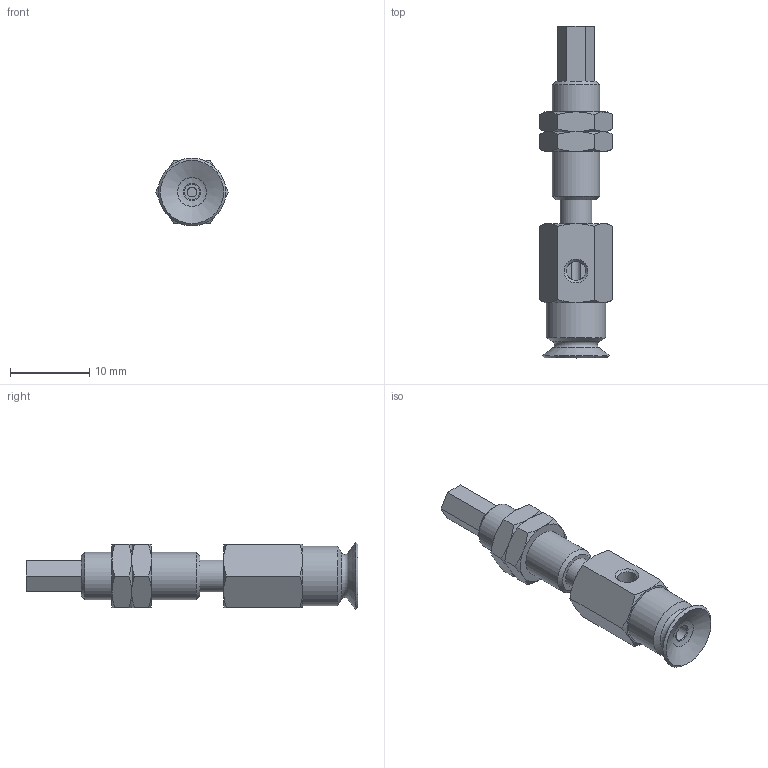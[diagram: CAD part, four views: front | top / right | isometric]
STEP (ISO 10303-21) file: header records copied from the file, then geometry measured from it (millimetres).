
FILE_DESCRIPTION(('STEP AP203'),'1');
FILE_NAME('.stp','2025-04-09T05:43:23',(' '),(' '),'Spatial InterOp 3D',' ',' ');
FILE_SCHEMA(('CONFIG_CONTROL_DESIGN'));
Length unit declared in the file: millimetre
Products named in the file (6): BNABPFYS-8A-3-※; CONNECTOR-8A-3; Nut-8A-3-s; NAPFTS-8A-3-FBODY; NAPFTS-8A-3-MBODY; BPFG-8A-※
Assembly tree (6 placements, depth 2):
  BNABPFYS-8A-3-※
    CONNECTOR-8A-3
    Nut-8A-3-s  x2
    NAPFTS-8A-3-FBODY
    NAPFTS-8A-3-MBODY
    BPFG-8A-※
Bounding box: 9.24 x 42 x 8.6 mm (x, y, z)
Volume: 1467.9 mm3; surface area: 2224 mm2
Topology: 6 solids, 6 shells, 132 faces, 281 edges, 167 vertices
Faces by surface type: plane 56, cone 52, cylinder 15, torus 8, bspline 1
Full cylindrical faces by diameter (mm): 1.2 x1, 2 x1, 2.459 x2, 3 x1, 4 x4, 5.188 x2, 6 x3, 7.5 x1
Entity records: 3213 total; most frequent: CARTESIAN_POINT 783, DIRECTION 446, ORIENTED_EDGE 380, AXIS2_PLACEMENT_3D 195, EDGE_CURVE 190, EDGE_LOOP 160, FACE_OUTER_BOUND 132, VERTEX_POINT 132
